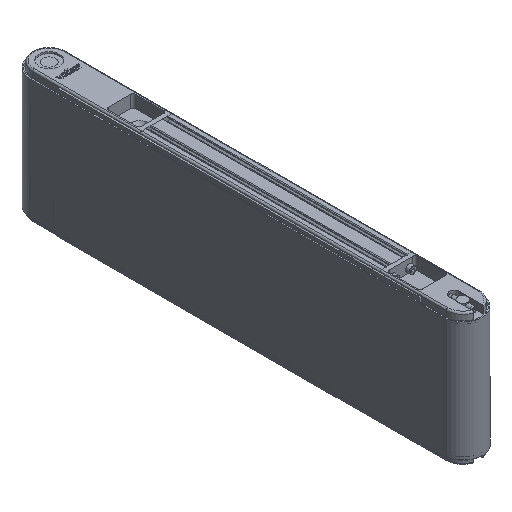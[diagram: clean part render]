
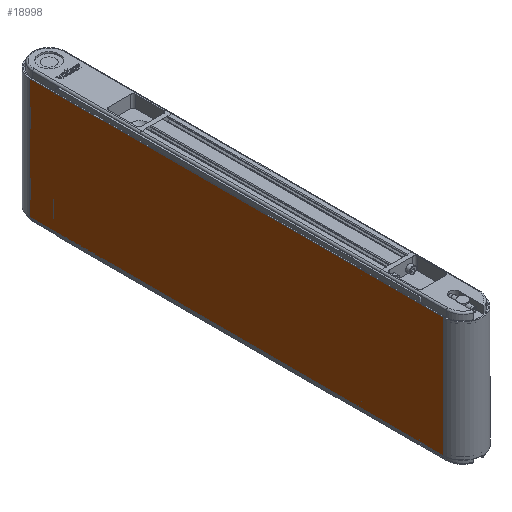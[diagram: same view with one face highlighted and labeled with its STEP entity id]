
A CAD part, isometric view. The second image highlights one B-rep face of the part: STEP entity #18998.
In plain terms, the highlighted planar face has unit normal (-1, 0, 0).
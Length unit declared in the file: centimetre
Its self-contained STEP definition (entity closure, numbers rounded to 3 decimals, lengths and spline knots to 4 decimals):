
#2418=FACE_OUTER_BOUND('',#3484,.T.);
#3484=EDGE_LOOP('',(#15584,#15585,#15586,#15587));
#5011=LINE('',#32832,#6503);
#5012=LINE('',#32837,#6504);
#5014=LINE('',#32841,#6506);
#5015=LINE('',#32842,#6507);
#6503=VECTOR('',#24674,1.);
#6504=VECTOR('',#24679,1.);
#6506=VECTOR('',#24683,1.);
#6507=VECTOR('',#24684,1.);
#8437=VERTEX_POINT('',#32826);
#8439=VERTEX_POINT('',#32830);
#8441=VERTEX_POINT('',#32835);
#8442=VERTEX_POINT('',#32840);
#10913=EDGE_CURVE('',#8437,#8439,#5011,.T.);
#10915=EDGE_CURVE('',#8441,#8439,#5012,.T.);
#10917=EDGE_CURVE('',#8441,#8442,#5014,.T.);
#10918=EDGE_CURVE('',#8442,#8437,#5015,.T.);
#15584=ORIENTED_EDGE('',*,*,#10917,.T.);
#15585=ORIENTED_EDGE('',*,*,#10918,.T.);
#15586=ORIENTED_EDGE('',*,*,#10913,.T.);
#15587=ORIENTED_EDGE('',*,*,#10915,.F.);
#17148=PLANE('',#20539);
#18998=ADVANCED_FACE('',(#2418),#17148,.T.);
#20539=AXIS2_PLACEMENT_3D('',#32839,#24681,#24682);
#24674=DIRECTION('',(0.,1.,0.));
#24679=DIRECTION('',(0.,0.,1.));
#24681=DIRECTION('center_axis',(-1.,0.,0.));
#24682=DIRECTION('ref_axis',(0.,0.,
1.));
#24683=DIRECTION('',(0.,-1.,0.));
#24684=DIRECTION('',(0.,0.,1.));
#32826=CARTESIAN_POINT('',(-2.33,-37.,7.25));
#32830=CARTESIAN_POINT('',(-2.33,13.,7.25));
#32832=CARTESIAN_POINT('',(-2.33,13.,7.25));
#32835=CARTESIAN_POINT('',(-2.33,13.,-7.25));
#32837=CARTESIAN_POINT('',(-2.33,13.,0.));
#32839=CARTESIAN_POINT('Origin',(-2.33,13.,0.));
#32840=CARTESIAN_POINT('',(-2.33,-37.,-7.25));
#32841=CARTESIAN_POINT('',(-2.33,13.,-7.25));
#32842=CARTESIAN_POINT('',(-2.33,-37.,0.));
